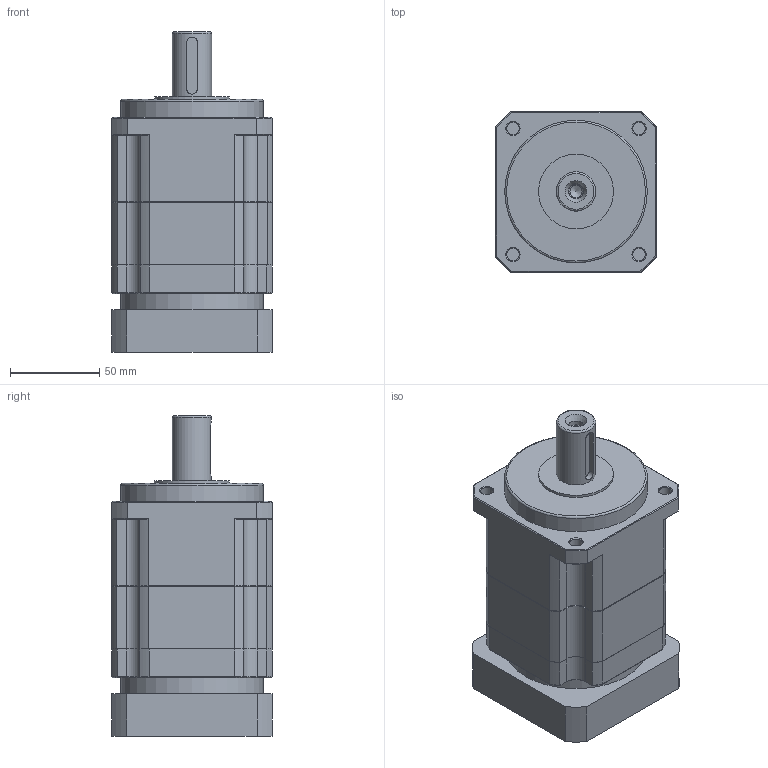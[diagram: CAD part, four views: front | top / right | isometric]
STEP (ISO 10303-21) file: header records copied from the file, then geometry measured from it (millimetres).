
FILE_DESCRIPTION(/* description */ (''),/* implementation_level */ '2;1');
FILE_NAME(/* name */ 'TB090-L2-14-50-70-M4-42.5-4.stp',/* time_stamp */ '2021-08-02T11:48:48+08:00',/* author */ (''),/* organization */ (''),/* preprocessor_version */ 'ST-DEVELOPER v16',/* originating_system */ 'SIEMENS PLM Software NX 10.0',/* authorisation */ '');
FILE_SCHEMA (('CONFIG_CONTROL_DESIGN'));
Length unit declared in the file: millimetre
Products named in the file (1): _model745
Bounding box: 90 x 90.21 x 179.85 mm (x, y, z)
Volume: 796175.1 mm3; surface area: 143710.8 mm2
Topology: 6 solids, 7 shells, 357 faces, 868 edges, 550 vertices
Faces by surface type: plane 147, cylinder 105, cone 97, torus 8
Full cylindrical faces by diameter (mm): 3.2 x4, 4 x4, 4.2 x10, 5.2 x1, 5.5 x4, 6.5 x1, 6.8 x1, 7 x4, 8.45 x1, 12.1 x1, 14 x1, 22 x1, 23 x1, 26.6 x1, 27.5 x1, 28 x2, 30 x1, 31 x1, 38 x1, 40 x1, 42 x1, 50 x1, 60 x1, 66 x1, 76 x1, 80 x3, 85 x1
Entity records: 9813 total; most frequent: CARTESIAN_POINT 1915, DIRECTION 1673, ORIENTED_EDGE 1418, EDGE_CURVE 709, AXIS2_PLACEMENT_3D 678, EDGE_LOOP 517, VERTEX_POINT 514, ADVANCED_FACE 357
